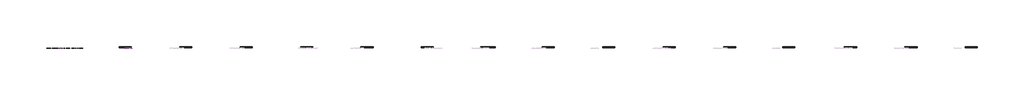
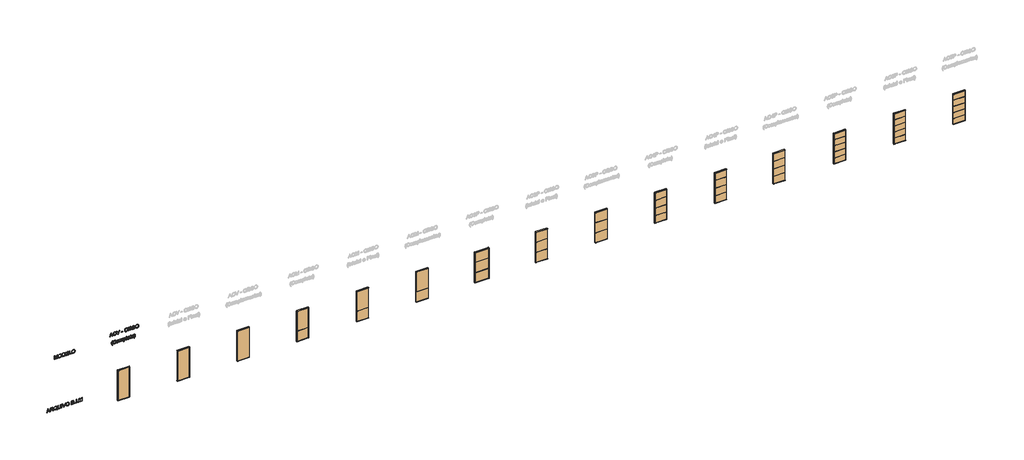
# One storey, part 1 of 12: 15 doors, 3 proxies.
"""IFC4 building model written with IfcOpenShell, lengths in millimetres."""

from ifc_helpers import new_model, si_unit, frame, origin, place, context, project, spatial, polyline, outline, extrude, transform, mapped, element, save
from components import ac3p_bc943793, ac3p_e0ca1f3b, ac3p_97d3eb84, ac4p_dcdd4fd7, ac4p_9f7205b8, ac4p_e05158a3, ac5p_d84bd6de, ac5p_90b039c0, ac5p_9849d78a, acm_47dcd549, acm_d2df9af4, acm_bb8ff462, acv_e3f03def, acv_4e578eec, acv_cffd639f

model = new_model("IFC4")

# Units and contexts
model_context = context("Model", 3, world=origin())
ifc_project = project(units=[si_unit("LENGTHUNIT", "METRE", prefix="MILLI")], contexts=[model_context])

# Site, building, storey
site = spatial("IfcSite", under=ifc_project)
building = spatial("IfcBuilding", under=site)
storey = spatial("IfcBuildingStorey", under=building, Name="02 - Marelli - Planta Baixa - Painéis Cego", Elevation=12000.0)

# Proxies
placement = place(None, origin())
element("IfcBuildingElementProxy", 1, Name="300mm Arial", ObjectType="300mm Arial", at=placement, inside=storey, context=model_context, shape_type="SweptSolid", body=[
    extrude(outline(polyline([(13100.0, -7636.3146377), (13100.0, -7596.5098058), (13194.1777908, -7562.076051), (13194.1777908, -7437.9526659), (13100.0, -7403.4453347), (13100.0, -7363.6405028), (13401.3689304, -7483.9379153), (13401.3689304, -7516.0172252), (13100.0, -7636.3146377)]), holes=[polyline([(13231.8489071, -7548.243688), (13312.415064, -7518.739552), (13363.6978141, -7499.9775703), (13305.9403409, -7478.8611437), (13231.8489071, -7451.7114525), (13231.8489071, -7548.243688)])]), frame((0.0, 8778.3159498, 0.0), z_axis=(0.0, 1.0, 0.0), x_axis=(0.0, 0.0, 1.0)), (0.0, 0.0, 1.0), 10.0),
    extrude(outline(polyline([(13100.0, -7323.3942126), (13100.0, -7285.7230963), (13231.8489071, -7285.7230963), (13231.8489071, -7240.2528817), (13230.5245319, -7218.4006911), (13223.350833, -7200.484838), (13203.816299, -7180.582422), (13162.4663628, -7152.2555084), (13100.0, -7113.0392877), (13100.0, -7069.2613303), (13181.6698029, -7119.5140108), (13220.4445652, -7150.0482164), (13236.5577966, -7171.4589486), (13246.5457928, -7134.3488523), (13254.5610217, -7119.9669655), (13264.5904046, -7108.3671864), (13289.2017101, -7093.0540983), (13318.8897871, -7087.9497357), (13342.7561316, -7091.0307474), (13364.4703663, -7100.2737825), (13381.9815493, -7114.6763626), (13393.2387384, -7133.2360093), (13399.3363824, -7158.629064), (13401.3689304, -7193.5318683), (13401.3689304, -7323.3942126), (13100.0, -7323.3942126)]), holes=[polyline([(13269.5200234, -7285.7230963), (13363.6978141, -7285.7230963), (13363.6978141, -7191.9131875), (13360.4420585, -7162.1055488), (13350.6747915, -7141.5501423), (13335.8675412, -7129.6031746), (13317.4918355, -7125.620852), (13304.1837044, -7127.7085823), (13291.9240369, -7133.9717732), (13281.7888879, -7144.254075), (13274.8543123, -7158.3991377), (13270.8535956, -7177.1887106), (13269.5200234, -7201.404543), (13269.5200234, -7285.7230963)])]), frame((0.0, 8778.3159498, 0.0), z_axis=(0.0, 1.0, 0.0), x_axis=(0.0, 0.0, 1.0)), (0.0, 0.0, 1.0), 10.0),
    extrude(outline(polyline([(13136.1260119, -6795.6307023), (13159.6520655, -6777.1814202), (13186.9673037, -6764.0664271), (13218.0349382, -6756.2305406), (13252.8181808, -6753.6185784), (13294.6463636, -6757.9227978), (13331.9863862, -6770.8354558), (13363.1827793, -6791.9610794), (13386.5800742, -6820.9041954), (13401.2033836, -6855.7702114), (13406.07782, -6894.6645354), (13401.3137481, -6933.2553567), (13387.0215326, -6967.9466288), (13363.6150407, -6996.93573), (13331.5081396, -7018.4200386), (13293.055274, -7031.7189727), (13250.6108888, -7036.1519507), (13208.2032918, -7031.7097756), (13170.3022493, -7018.3832504), (13138.6460036, -6996.8161684), (13114.9727972, -6967.6523232), (13100.2115321, -6932.8322924), (13095.2911105, -6894.2966534), (13099.5585416, -6855.9449554), (13112.360835, -6821.0881364), (13091.52032, -6790.1308665), (13077.1177399, -6759.063232), (13104.7088895, -6748.9096889), (13117.5295771, -6771.2953083), (13136.1260119, -6795.6307023)]), holes=[polyline([(13186.2315397, -6883.9223811), (13157.3895912, -6893.6344658), (13150.712533, -6873.2721974), (13140.6877487, -6853.9767867), (13134.8936072, -6873.6032912), (13132.9622268, -6894.5173826), (13134.8637168, -6916.2385151), (13140.568187, -6935.9316982), (13150.0756373, -6953.5969318), (13163.3860678, -6969.2342158), (13180.251158, -6982.0296115), (13200.4225876, -6991.1691798), (13223.9003567, -6996.6529208), (13250.6844652, -6998.4808344), (13278.1859436, -6996.6322274), (13302.0499888, -6991.0864063), (13322.2766007, -6981.8433712), (13338.8657795, -6968.903122), (13351.7899338, -6953.1577726), (13361.0214726, -6935.4994369), (13366.5603959, -6915.9281147), (13368.4067037, -6894.4438062), (13364.7554749, -6865.9605427), (13353.8017885, -6840.4019411), (13336.2354232, -6819.2027411), (13312.7461578, -6803.7976826), (13284.0605592, -6794.4166917), (13250.9051944, -6791.2896947), (13221.7321522, -6793.5015852), (13196.4586591, -6800.1372567), (13175.0847152, -6811.1967092), (13157.6103204, -6826.6799427), (13174.2569807, -6852.2477413), (13186.2315397, -6883.9223811)])]), frame((0.0, 8778.3159498, 0.0), z_axis=(0.0, 1.0, 0.0), x_axis=(0.0, 0.0, 1.0)), (0.0, 0.0, 1.0), 10.0),
    extrude(outline(polyline([(13401.3689304, -6499.3385434), (13228.8322747, -6499.3385434), (13181.6698029, -6504.1026152), (13164.9311721, -6510.057705), (13152.7542781, -6518.3948307), (13144.0952556, -6529.5278596), (13137.9102396, -6543.8706589), (13132.9622268, -6582.1855687), (13135.4638243, -6606.3554158), (13142.968617, -6626.4785609), (13155.0811317, -6641.9112106), (13171.4058953, -6652.0095714), (13194.9779341, -6657.5829836), (13228.8322747, -6659.4407877), (13401.3689304, -6659.4407877), (13401.3689304, -6697.111904), (13227.5078995, -6697.111904), (13184.7324205, -6694.2516215), (13152.0553023, -6685.6707739), (13127.6923172, -6670.4036711), (13109.8592375, -6647.4846228), (13098.9331422, -6616.904432), (13095.2911105, -6578.6539015), (13099.4757682, -6539.5480454), (13112.0297412, -6508.7563224), (13131.2515755, -6486.2235502), (13155.4398167, -6471.8945465), (13186.7925597, -6464.2242069), (13227.5078995, -6461.6674271), (13401.3689304, -6461.6674271), (13401.3689304, -6499.3385434)])), frame((0.0, 8778.3159498, 0.0), z_axis=(0.0, 1.0, 0.0), x_axis=(0.0, 0.0, 1.0)), (0.0, 0.0, 1.0), 10.0),
    extrude(outline(polyline([(-6353.3629677, 8778.3159498), (-6391.034084, 8778.3159498), (-6391.034084, 8788.3159498), (-6353.3629677, 8788.3159498), (-6353.3629677, 8778.3159498)])), frame((0.0, 0.0, 13100.0), z_axis=(0.0, 0.0, 1.0), x_axis=(1.0, 0.0, 0.0)), (0.0, 0.0, 1.0), 301.3689304),
    extrude(outline(polyline([(13100.0, -6188.9932922), (13100.0, -6150.0713771), (13401.3689304, -6035.2186183), (13401.3689304, -6075.5384849), (13184.2449769, -6156.0310655), (13135.3166715, -6172.0707205), (13184.2449769, -6188.3311046), (13401.3689304, -6268.602956), (13401.3689304, -6308.9228227), (13100.0, -6188.9932922)])), frame((0.0, 8778.3159498, 0.0), z_axis=(0.0, 1.0, 0.0), x_axis=(0.0, 0.0, 1.0)), (0.0, 0.0, 1.0), 10.0),
    extrude(outline(polyline([(13246.7113397, -6014.3229209), (13208.1665036, -6010.0187016), (13171.7002009, -5997.1060436), (13140.007167, -5975.8424642), (13115.7821376, -5946.485481), (13100.4138672, -5910.8377157), (13095.2911105, -5870.70179), (13099.9264236, -5832.892718), (13113.832363, -5797.7507904), (13136.7514113, -5767.7868019), (13168.4260511, -5745.5115471), (13206.8881137, -5731.6883811), (13250.1694304, -5727.0806591), (13292.8805301, -5731.4584548), (13330.8091638, -5744.5918421), (13362.4286213, -5766.0761506), (13386.2121922, -5795.5067102), (13401.1114131, -5830.9521404), (13406.07782, -5870.4810608), (13403.4336681, -5900.7715446), (13395.5012126, -5928.1465636), (13382.2804534, -5952.6061177), (13363.7713905, -5974.1502071), (13340.5902263, -5991.7257694), (13313.3531631, -6004.2797425), (13282.0602009, -6011.8121263), (13246.7113397, -6014.3229209)]), holes=[polyline([(13246.3434577, -5976.6518046), (13276.8799625, -5974.6882345), (13302.7121764, -5968.797524), (13323.8400992, -5958.9796733), (13340.263731, -5945.2346822), (13352.5762816, -5928.7673644), (13361.3709605, -5910.7825334), (13366.6477679, -5891.2801891), (13368.4067037, -5870.2603316), (13364.7554749, -5841.0964864), (13353.8017885, -5814.9676677), (13336.2078321, -5793.3086153), (13312.6357932, -5777.5540688), (13283.8122389, -5767.9523488), (13250.463736, -5764.7517754), (13223.9256486, -5766.6210758), (13200.5973316, -5772.228977), (13180.478785, -5781.5754789), (13163.5700088, -5794.6605816), (13150.1791041, -5810.642755), (13140.6141723, -5828.6804691), (13134.8752131, -5848.7737238), (13132.9622268, -5870.9225192), (13134.856819, -5892.6988341), (13140.5405959, -5912.557564), (13150.0135572, -5930.4987091), (13163.2757032, -5946.5222692), (13179.8349915, -5959.703941), (13199.19938, -5969.1194208), (13221.3688687, -5974.7687087), (13246.3434577, -5976.6518046)])]), frame((0.0, 8778.3159498, 0.0), z_axis=(0.0, 1.0, 0.0), x_axis=(0.0, 0.0, 1.0)), (0.0, 0.0, 1.0), 10.0),
    extrude(outline(polyline([(13100.0, -5557.5606357), (13100.0, -5443.4436408), (13105.1871361, -5395.1407348), (13111.6066769, -5377.10532), (13120.4910271, -5362.3624491), (13132.7598917, -5350.3235108), (13149.3329756, -5340.399894), (13168.8215242, -5333.7504269), (13189.8367832, -5331.5339379), (13215.055094, -5334.7804965), (13236.7049494, -5344.5201723), (13253.6643094, -5360.2931129), (13264.8111338, -5381.6394656), (13276.5557665, -5363.7695977), (13291.4825785, -5351.0684718), (13308.543106, -5343.4809057), (13326.6888854, -5340.951717), (13346.4073604, -5343.9591523), (13365.2429185, -5352.9814582), (13381.2549824, -5367.3104619), (13392.5029744, -5386.2379906), (13399.1524414, -5410.9320695), (13401.3689304, -5442.560724), (13401.3689304, -5557.5606357), (13100.0, -5557.5606357)]), holes=[polyline([(13278.9378025, -5519.8895194), (13363.6978141, -5519.8895194), (13363.6978141, -5456.3195106), (13359.7614768, -5407.9062401), (13354.1604734, -5395.4166463), (13345.230138, -5386.2012024), (13333.7890079, -5380.5174255), (13320.6556207, -5378.6228333), (13307.1267603, -5380.6553813), (13296.1178916, -5386.7530254), (13287.7577733, -5396.8605832), (13282.175164, -5410.9228724), (13278.9378025, -5451.0955863), (13278.9378025, -5519.8895194)]), polyline([(13137.6711163, -5519.8895194), (13241.2666861, -5519.8895194), (13241.2666861, -5446.3131204), (13240.0066903, -5419.4853259), (13236.2267028, -5399.776048), (13229.3381125, -5385.8609115), (13218.752308, -5376.4155413), (13205.2142506, -5371.007676), (13189.4689012, -5369.2050542), (13175.9124497, -5370.7409615), (13164.0850436, -5375.3486835), (13147.3464128, -5391.0204565), (13139.1426443, -5414.6752688), (13137.6711163, -5442.6343004), (13137.6711163, -5519.8895194)])]), frame((0.0, 8778.3159498, 0.0), z_axis=(0.0, 1.0, 0.0), x_axis=(0.0, 0.0, 1.0)), (0.0, 0.0, 1.0), 10.0),
    extrude(outline(polyline([(-5237.3561471, 8778.3159498), (-5275.0272634, 8778.3159498), (-5275.0272634, 8788.3159498), (-5237.3561471, 8788.3159498), (-5237.3561471, 8778.3159498)])), frame((0.0, 0.0, 13100.0), z_axis=(0.0, 0.0, 1.0), x_axis=(1.0, 0.0, 0.0)), (0.0, 0.0, 1.0), 37.6711163),
    extrude(outline(polyline([(-5119.6339087, 8778.3159498), (-5157.305025, 8778.3159498), (-5157.305025, 8788.3159498), (-5119.6339087, 8788.3159498), (-5119.6339087, 8778.3159498)])), frame((0.0, 0.0, 13100.0), z_axis=(0.0, 0.0, 1.0), x_axis=(1.0, 0.0, 0.0)), (0.0, 0.0, 1.0), 301.3689304),
    extrude(outline(polyline([(-5001.9116702, 8778.3159498), (-5039.5827865, 8778.3159498), (-5039.5827865, 8788.3159498), (-5001.9116702, 8788.3159498), (-5001.9116702, 8778.3159498)])), frame((0.0, 0.0, 13100.0), z_axis=(0.0, 0.0, 1.0), x_axis=(1.0, 0.0, 0.0)), (0.0, 0.0, 1.0), 37.6711163),
    extrude(outline(polyline([(13100.0, -4926.5694376), (13100.0, -4888.8983213), (13363.6978141, -4888.8983213), (13100.0, -4813.1882067), (13100.0, -4762.1261857), (13363.6978141, -4686.4160711), (13100.0, -4686.4160711), (13100.0, -4648.7449548), (13401.3689304, -4648.7449548), (13401.3689304, -4713.5657624), (13192.6326864, -4774.1927152), (13144.5872978, -4787.6571962), (13188.9538664, -4800.0916076), (13401.3689304, -4861.74863), (13401.3689304, -4926.5694376), (13100.0, -4926.5694376)])), frame((0.0, 8778.3159498, 0.0), z_axis=(0.0, 1.0, 0.0), x_axis=(0.0, 0.0, 1.0)), (0.0, 0.0, 1.0), 10.0),
])
element("IfcBuildingElementProxy", 2, Name="300mm Arial", ObjectType="300mm Arial", at=placement, inside=storey, context=model_context, shape_type="SweptSolid", body=[
    extrude(outline(polyline([(17600.0, -6993.7719449), (17600.0, -6956.1008286), (17863.6978141, -6956.1008286), (17600.0, -6880.390714), (17600.0, -6829.328693), (17863.6978141, -6753.6185784), (17600.0, -6753.6185784), (17600.0, -6715.9474621), (17901.3689304, -6715.9474621), (17901.3689304, -6780.7682697), (17692.6326864, -6841.3952225), (17644.5872978, -6854.8597035), (17688.9538664, -6867.2941149), (17901.3689304, -6928.9511373), (17901.3689304, -6993.7719449), (17600.0, -6993.7719449)])), frame((0.0, 8778.3159498, 0.0), z_axis=(0.0, 1.0, 0.0), x_axis=(0.0, 0.0, 1.0)), (0.0, 0.0, 1.0), 10.0),
    extrude(outline(polyline([(17746.7113397, -6664.1496772), (17708.1665036, -6659.8454579), (17671.7002009, -6646.9327998), (17640.007167, -6625.6692205), (17615.7821376, -6596.3122373), (17600.4138672, -6560.664472), (17595.2911105, -6520.5285463), (17599.9264236, -6482.7194742), (17613.832363, -6447.5775466), (17636.7514113, -6417.6135581), (17668.4260511, -6395.3383033), (17706.8881137, -6381.5151374), (17750.1694304, -6376.9074154), (17792.8805301, -6381.2852111), (17830.8091638, -6394.4185983), (17862.4286213, -6415.9029069), (17886.2121922, -6445.3334665), (17901.1114131, -6480.7788967), (17906.07782, -6520.3078171), (17903.4336681, -6550.5983009), (17895.5012126, -6577.9733198), (17882.2804534, -6602.432874), (17863.7713905, -6623.9769633), (17840.5902263, -6641.5525257), (17813.3531631, -6654.1064987), (17782.0602009, -6661.6388826), (17746.7113397, -6664.1496772)]), holes=[polyline([(17746.3434577, -6626.4785609), (17776.8799625, -6624.5149908), (17802.7121764, -6618.6242803), (17823.8400992, -6608.8064296), (17840.263731, -6595.0614385), (17852.5762816, -6578.5941207), (17861.3709605, -6560.6092897), (17866.6477679, -6541.1069454), (17868.4067037, -6520.0870879), (17864.7554749, -6490.9232427), (17853.8017885, -6464.794424), (17836.2078321, -6443.1353716), (17812.6357932, -6427.3808251), (17783.8122389, -6417.779105), (17750.463736, -6414.5785317), (17723.9256486, -6416.4478321), (17700.5973316, -6422.0557332), (17680.478785, -6431.4022352), (17663.5700088, -6444.4873379), (17650.1791041, -6460.4695113), (17640.6141723, -6478.5072254), (17634.8752131, -6498.6004801), (17632.9622268, -6520.7492755), (17634.856819, -6542.5255903), (17640.5405959, -6562.3843203), (17650.0135572, -6580.3254653), (17663.2757032, -6596.3490255), (17679.8349915, -6609.5306972), (17699.19938, -6618.9461771), (17721.3688687, -6624.5954649), (17746.3434577, -6626.4785609)])]), frame((0.0, 8778.3159498, 0.0), z_axis=(0.0, 1.0, 0.0), x_axis=(0.0, 0.0, 1.0)), (0.0, 0.0, 1.0), 10.0),
    extrude(outline(polyline([(17600.0, -6325.1096305), (17600.0, -6216.1429835), (17605.1503479, -6167.6929247), (17611.5055094, -6148.1491937), (17620.2702979, -6131.6772774), (17632.088507, -6117.3298796), (17647.6039302, -6104.1597042), (17667.2580258, -6092.7185741), (17691.4922522, -6083.5583124), (17719.9571216, -6077.5434418), (17752.303146, -6075.5384849), (17790.3789325, -6078.499935), (17823.9665587, -6087.3842852), (17852.5142015, -6102.2283237), (17875.470038, -6123.0688387), (17888.6586075, -6143.3391366), (17897.0279229, -6167.3618309), (17901.3689304, -6221.1461786), (17901.3689304, -6325.1096305), (17600.0, -6325.1096305)]), holes=[polyline([(17637.6711163, -6287.4385141), (17863.6978141, -6287.4385141), (17863.6978141, -6221.8083662), (17862.189498, -6190.06015), (17857.6645494, -6168.3919005), (17845.0829852, -6147.10073), (17824.2608643, -6129.2860444), (17793.9473879, -6117.228712), (17752.8917572, -6113.2096012), (17721.9068962, -6115.2605434), (17695.9068361, -6121.4133697), (17674.7996067, -6131.245016), (17658.4932372, -6144.332418), (17649.6824634, -6156.5093121), (17643.1157698, -6172.2914497), (17639.0322797, -6193.2055411), (17637.6711163, -6220.7782966), (17637.6711163, -6287.4385141)])]), frame((0.0, 8778.3159498, 0.0), z_axis=(0.0, 1.0, 0.0), x_axis=(0.0, 0.0, 1.0)), (0.0, 0.0, 1.0), 10.0),
    extrude(outline(polyline([(17600.0, -6023.7407), (17600.0, -5802.4228917), (17637.6711163, -5802.4228917), (17637.6711163, -5986.0695837), (17736.5577966, -5986.0695837), (17736.5577966, -5816.5495603), (17774.2289129, -5816.5495603), (17774.2289129, -5986.0695837), (17863.6978141, -5986.0695837), (17863.6978141, -5807.1317812), (17901.3689304, -5807.1317812), (17901.3689304, -6023.7407), (17600.0, -6023.7407)])), frame((0.0, 8778.3159498, 0.0), z_axis=(0.0, 1.0, 0.0), x_axis=(0.0, 0.0, 1.0)), (0.0, 0.0, 1.0), 10.0),
    extrude(outline(polyline([(17600.0, -5745.9162172), (17600.0, -5557.5606357), (17637.6711163, -5557.5606357), (17637.6711163, -5708.2451009), (17901.3689304, -5708.2451009), (17901.3689304, -5745.9162172), (17600.0, -5745.9162172)])), frame((0.0, 8778.3159498, 0.0), z_axis=(0.0, 1.0, 0.0), x_axis=(0.0, 0.0, 1.0)), (0.0, 0.0, 1.0), 10.0),
    extrude(outline(polyline([(17746.7113397, -5529.3072985), (17708.1665036, -5525.0030791), (17671.7002009, -5512.0904211), (17640.007167, -5490.8268418), (17615.7821376, -5461.4698586), (17600.4138672, -5425.8220932), (17595.2911105, -5385.6861676), (17599.9264236, -5347.8770955), (17613.832363, -5312.7351679), (17636.7514113, -5282.7711794), (17668.4260511, -5260.4959246), (17706.8881137, -5246.6727586), (17750.1694304, -5242.0650367), (17792.8805301, -5246.4428324), (17830.8091638, -5259.5762196), (17862.4286213, -5281.0605281), (17886.2121922, -5310.4910878), (17901.1114131, -5345.936518), (17906.07782, -5385.4654384), (17903.4336681, -5415.7559222), (17895.5012126, -5443.1309411), (17882.2804534, -5467.5904953), (17863.7713905, -5489.1345846), (17840.5902263, -5506.7101469), (17813.3531631, -5519.26412), (17782.0602009, -5526.7965039), (17746.7113397, -5529.3072985)]), holes=[polyline([(17746.3434577, -5491.6361822), (17776.8799625, -5489.672612), (17802.7121764, -5483.7819016), (17823.8400992, -5473.9640508), (17840.263731, -5460.2190598), (17852.5762816, -5443.751742), (17861.3709605, -5425.7669109), (17866.6477679, -5406.2645667), (17868.4067037, -5385.2447092), (17864.7554749, -5356.080864), (17853.8017885, -5329.9520453), (17836.2078321, -5308.2929928), (17812.6357932, -5292.5384464), (17783.8122389, -5282.9367263), (17750.463736, -5279.736153), (17723.9256486, -5281.6054533), (17700.5973316, -5287.2133545), (17680.478785, -5296.5598565), (17663.5700088, -5309.6449592), (17650.1791041, -5325.6271326), (17640.6141723, -5343.6648467), (17634.8752131, -5363.7581014), (17632.9622268, -5385.9068968), (17634.856819, -5407.6832116), (17640.5405959, -5427.5419416), (17650.0135572, -5445.4830866), (17663.2757032, -5461.5066468), (17679.8349915, -5474.6883185), (17699.19938, -5484.1037983), (17721.3688687, -5489.7530862), (17746.3434577, -5491.6361822)])]), frame((0.0, 8778.3159498, 0.0), z_axis=(0.0, 1.0, 0.0), x_axis=(0.0, 0.0, 1.0)), (0.0, 0.0, 1.0), 10.0),
])
element("IfcBuildingElementProxy", 3, Name="300mm Arial", ObjectType="300mm Arial", at=placement, inside=storey, context=model_context, shape_type="SweptSolid", body=[
    extrude(outline(polyline([(17965.9244535, -2358.4901549), (17965.9244535, -2318.685323), (18060.1022443, -2284.2515683), (18060.1022443, -2160.1281831), (17965.9244535, -2125.620852), (17965.9244535, -2085.8160201), (18267.293384, -2206.1134325), (18267.293384, -2238.1927425), (17965.9244535, -2358.4901549)]), holes=[polyline([(18097.7733606, -2270.4192053), (18178.3395176, -2240.9150692), (18229.6222677, -2222.1530875), (18171.8647944, -2201.036661), (18097.7733606, -2173.8869697), (18097.7733606, -2270.4192053)])]), frame((0.0, 8778.3159498, 0.0), z_axis=(0.0, 1.0, 0.0), x_axis=(0.0, 0.0, 1.0)), (0.0, 0.0, 1.0), 10.0),
    extrude(outline(polyline([(18073.0516905, -1833.6697006), (18040.7884396, -1845.8557917), (18017.5750857, -1865.638646), (18003.5587816, -1891.8410411), (17998.8866803, -1923.2857546), (18002.3171799, -1950.2607019), (18012.6086787, -1975.2674805), (18029.8347531, -1996.1263897), (18054.0689796, -2010.6577285), (18084.1617268, -2019.1833937), (18118.9633635, -2022.0252821), (18147.3822477, -2019.6248521), (18174.9550032, -2012.423562), (18199.3455795, -1999.2993719), (18218.2179258, -1979.1302415), (18230.3028494, -1952.5507673), (18234.3311572, -1920.1955459), (18230.6983225, -1892.1261496), (18219.7998184, -1869.2806777), (18200.9550632, -1851.438401), (18173.4834752, -1838.3785901), (18182.4597959, -1800.7074738), (18220.278065, -1817.3449371), (18235.6003501, -1829.1470513), (18248.5314022, -1843.2714207), (18258.7999084, -1859.4513307), (18266.1345557, -1877.4200669), (18272.0022735, -1918.7240179), (18267.4681279, -1956.5790752), (18253.8656912, -1991.1231945), (18231.526057, -2020.2502515), (18200.7803193, -2041.8541217), (18162.8332915, -2055.2358292), (18118.8897871, -2059.6963984), (18077.2271512, -2055.750864), (18038.3236302, -2043.9142608), (18005.2326447, -2024.5268797), (17981.0076153, -1997.9290114), (17966.1635768, -1963.2285422), (17961.215564, -1919.5333583), (17962.8503396, -1897.1109507), (17967.7546665, -1876.4911648), (17975.9285445, -1857.6740008), (17987.3719739, -1840.6594585), (18001.9286046, -1825.7832303), (18019.4420868, -1813.3810086), (18039.9124206, -1803.4527932), (18063.3396059, -1795.9985843), (18073.0516905, -1833.6697006)])), frame((0.0, 8778.3159498, 0.0), z_axis=(0.0, 1.0, 0.0), x_axis=(0.0, 0.0, 1.0)), (0.0, 0.0, 1.0), 10.0),
    extrude(outline(polyline([(17965.9244535, -1655.1733565), (17965.9244535, -1616.2514414), (18267.293384, -1501.3986825), (18267.293384, -1541.7185492), (18050.1694304, -1622.2111298), (18001.2411251, -1638.2507847), (18050.1694304, -1654.5111689), (18267.293384, -1734.7830203), (18267.293384, -1775.102887), (17965.9244535, -1655.1733565)])), frame((0.0, 8778.3159498, 0.0), z_axis=(0.0, 1.0, 0.0), x_axis=(0.0, 0.0, 1.0)), (0.0, 0.0, 1.0), 10.0),
    extrude(outline(polyline([(-1254.4762874, 8778.3159498), (-1372.1985258, 8778.3159498), (-1372.1985258, 8788.3159498), (-1254.4762874, 8788.3159498), (-1254.4762874, 8778.3159498)])), frame((0.0, 0.0, 18055.3933548), z_axis=(0.0, 0.0, 1.0), x_axis=(1.0, 0.0, 0.0)), (0.0, 0.0, 1.0), 37.6711163),
    extrude(outline(polyline([(18073.0516905, -877.7651243), (18040.7884396, -889.9512154), (18017.5750857, -909.7340697), (18003.5587816, -935.9364648), (17998.8866803, -967.3811783), (18002.3171799, -994.3561256), (18012.6086787, -1019.3629043), (18029.8347531, -1040.2218134), (18054.0689796, -1054.7531522), (18084.1617268, -1063.2788174), (18118.9633635, -1066.1207058), (18147.3822477, -1063.7202758), (18174.9550032, -1056.5189858), (18199.3455795, -1043.3947956), (18218.2179258, -1023.2256652), (18230.3028494, -996.6461911), (18234.3311572, -964.2909696), (18230.6983225, -936.2215734), (18219.7998184, -913.3761015), (18200.9550632, -895.5338247), (18173.4834752, -882.4740139), (18182.4597959, -844.8028976), (18220.278065, -861.4403608), (18235.6003501, -873.242475), (18248.5314022, -887.3668444), (18258.7999084, -903.5467544), (18266.1345557, -921.5154906), (18272.0022735, -962.8194416), (18267.4681279, -1000.6744989), (18253.8656912, -1035.2186183), (18231.526057, -1064.3456752), (18200.7803193, -1085.9495454), (18162.8332915, -1099.331253), (18118.8897871, -1103.7918222), (18077.2271512, -1099.8462878), (18038.3236302, -1088.0096846), (18005.2326447, -1068.6223034), (17981.0076153, -1042.0244352), (17966.1635768, -1007.323966), (17961.215564, -963.628782), (17962.8503396, -941.2063744), (17967.7546665, -920.5865886), (17975.9285445, -901.7694245), (17987.3719739, -884.7548822), (18001.9286046, -869.878654), (18019.4420868, -857.4764323), (18039.9124206, -847.5482169), (18063.3396059, -840.094008), (18073.0516905, -877.7651243)])), frame((0.0, 8778.3159498, 0.0), z_axis=(0.0, 1.0, 0.0), x_axis=(0.0, 0.0, 1.0)), (0.0, 0.0, 1.0), 10.0),
    extrude(outline(polyline([(17965.9244535, -788.2962231), (17965.9244535, -566.9784148), (18003.5955698, -566.9784148), (18003.5955698, -750.6251068), (18102.4822501, -750.6251068), (18102.4822501, -581.1050834), (18140.1533665, -581.1050834), (18140.1533665, -750.6251068), (18229.6222677, -750.6251068), (18229.6222677, -571.6873043), (18267.293384, -571.6873043), (18267.293384, -788.2962231), (17965.9244535, -788.2962231)])), frame((0.0, 8778.3159498, 0.0), z_axis=(0.0, 1.0, 0.0), x_axis=(0.0, 0.0, 1.0)), (0.0, 0.0, 1.0), 10.0),
    extrude(outline(polyline([(18083.646692, -369.2050542), (18083.646692, -284.4450425), (18029.2001567, -284.4450425), (18018.55917, -300.4938945), (18008.5619768, -322.5944054), (18001.3055044, -348.0426424), (17998.8866803, -374.1346729), (18002.0964507, -403.6847942), (18011.7257619, -431.5610524), (18027.967752, -455.3814116), (18051.015559, -472.7638358), (18080.6576508, -483.3864284), (18116.6824952, -486.9272926), (18147.4006418, -483.9842367), (18175.83792, -475.1550688), (18204.8638094, -455.7676877), (18216.8015801, -441.3283193), (18226.2009651, -422.9526137), (18232.2986092, -400.7233441), (18234.3311572, -374.7232841), (18232.445762, -352.5124087), (18226.7895763, -332.3800665), (18217.9971966, -315.4942829), (18206.7032194, -303.0230833), (18191.7212251, -293.5961071), (18171.8647944, -285.8429941), (18181.6504555, -251.1149337), (18209.4899255, -260.7074568), (18231.4984659, -273.8868292), (18248.494614, -291.7015149), (18261.2969075, -315.1999773), (18269.325932, -343.1038266), (18272.0022735, -374.1346729), (18267.3853545, -416.4043142), (18253.5345974, -453.4500311), (18230.1832877, -483.864675), (18197.0647111, -506.2410974), (18157.581776, -520.0090811), (18115.1373908, -524.5984089), (18072.9965082, -519.990687), (18035.0126922, -506.167521), (18003.3472495, -483.303655), (17980.1614867, -451.5738329), (17965.9520447, -413.3784848), (17961.215564, -371.1180406), (17964.1954082, -338.7720161), (17973.1349406, -307.216938), (17987.9789791, -276.5263826), (18008.6723414, -246.7739262), (18121.3178083, -246.7739262), (18121.3178083, -369.2050542), (18083.646692, -369.2050542)])), frame((0.0, 8778.3159498, 0.0), z_axis=(0.0, 1.0, 0.0), x_axis=(0.0, 0.0, 1.0)), (0.0, 0.0, 1.0), 10.0),
    extrude(outline(polyline([(18112.6357932, -199.6850308), (18074.0909572, -195.3808115), (18037.6246544, -182.4681534), (18005.9316205, -161.2045741), (17981.7065911, -131.8475909), (17966.3383208, -96.1998256), (17961.215564, -56.0638999), (17965.8508771, -18.2548278), (17979.7568166, 16.8870998), (18002.6758649, 46.8510883), (18034.3505046, 69.1263431), (18072.8125672, 82.949509), (18116.093884, 87.557231), (18158.8049836, 83.1794353), (18196.7336173, 70.0460481), (18228.3530748, 48.5617395), (18252.1366458, 19.1311799), (18267.0358666, -16.3142503), (18272.0022735, -55.8431707), (18269.3581217, -86.1336545), (18261.4256662, -113.5086734), (18248.204907, -137.9682276), (18229.6958441, -159.5123169), (18206.5146799, -177.0878793), (18179.2776166, -189.6418523), (18147.9846544, -197.1742362), (18112.6357932, -199.6850308)]), holes=[polyline([(18112.2679112, -162.0139145), (18142.8044161, -160.0503444), (18168.6366299, -154.1596339), (18189.7645528, -144.3417832), (18206.1881846, -130.5967921), (18218.5007351, -114.1294743), (18227.2954141, -96.1446433), (18232.5722214, -76.642299), (18234.3311572, -55.6224415), (18230.6799284, -26.4585963), (18219.726242, -0.3297776), (18202.1322856, 21.3292748), (18178.5602467, 37.0838213), (18149.7366924, 46.6855414), (18116.3881896, 49.8861147), (18089.8501021, 48.0168143), (18066.5217851, 42.4089132), (18046.4032385, 33.0624112), (18029.4944623, 19.9773085), (18016.1035577, 3.9951351), (18006.5386258, -14.042579), (18000.7996667, -34.1358337), (17998.8866803, -56.2846291), (18000.7812726, -78.0609439), (18006.4650494, -97.9196739), (18015.9380108, -115.8608189), (18029.2001567, -131.8843791), (18045.759445, -145.0660508), (18065.1238335, -154.4815307), (18087.2933223, -160.1308185), (18112.2679112, -162.0139145)])]), frame((0.0, 8778.3159498, 0.0), z_axis=(0.0, 1.0, 0.0), x_axis=(0.0, 0.0, 1.0)), (0.0, 0.0, 1.0), 10.0),
    extrude(outline(polyline([(17149.3155348, -2135.038631), (17149.3155348, -2106.7852938), (17197.5540614, -2135.6272422), (17245.8109821, -2156.228634), (17294.0862969, -2168.589469), (17342.3800058, -2172.7097473), (17380.2534572, -2170.3369085), (17417.9429677, -2163.2183919), (17475.7740173, -2142.0283889), (17535.4444769, -2106.7852938), (17535.4444769, -2135.038631), (17484.934279, -2169.7299032), (17434.2033518, -2194.0469031), (17389.4137189, -2206.2973735), (17342.600735, -2210.3808636), (17289.2210575, -2204.917816), (17237.68079, -2188.5286731), (17190.2791949, -2164.2300674), (17149.3155348, -2135.038631)])), frame((0.0, 8778.3159498, 0.0), z_axis=(0.0, 1.0, 0.0), x_axis=(0.0, 0.0, 1.0)), (0.0, 0.0, 1.0), 10.0),
    extrude(outline(polyline([(17341.2027835, -1852.5052587), (17308.9395325, -1864.6913498), (17285.7261786, -1884.4742041), (17271.7098746, -1910.6765992), (17267.0377732, -1942.1213128), (17270.4682728, -1969.0962601), (17280.7597717, -1994.1030387), (17297.9858461, -2014.9619478), (17322.2200725, -2029.4932866), (17352.3128197, -2038.0189519), (17387.1144565, -2040.8608403), (17415.5333406, -2038.4604103), (17443.1060961, -2031.2591202), (17467.4966724, -2018.13493), (17486.3690188, -1997.9657996), (17498.4539423, -1971.3863255), (17502.4822501, -1939.031104), (17498.8494154, -1910.9617078), (17487.9509113, -1888.1162359), (17469.1061561, -1870.2739591), (17441.6345681, -1857.2141483), (17450.6108888, -1819.543032), (17488.4291579, -1836.1804952), (17503.751443, -1847.9826095), (17516.6824952, -1862.1069788), (17526.9510013, -1878.2868888), (17534.2856486, -1896.255625), (17540.1533665, -1937.559576), (17535.6192209, -1975.4146333), (17522.0167841, -2009.9587527), (17499.6771499, -2039.0858096), (17468.9314122, -2060.6896798), (17430.9843844, -2074.0713874), (17387.0408801, -2078.5319566), (17345.3782441, -2074.5864222), (17306.4747231, -2062.749819), (17273.3837376, -2043.3624378), (17249.1587083, -2016.7645696), (17234.3146698, -1982.0641004), (17229.3666569, -1938.3689164), (17231.0014325, -1915.9465088), (17235.9057594, -1895.326723), (17244.0796375, -1876.5095589), (17255.5230668, -1859.4950166), (17270.0796975, -1844.6187885), (17287.5931797, -1832.2165667), (17308.0635135, -1822.2883514), (17331.4906988, -1814.8341424), (17341.2027835, -1852.5052587)])), frame((0.0, 8778.3159498, 0.0), z_axis=(0.0, 1.0, 0.0), x_axis=(0.0, 0.0, 1.0)), (0.0, 0.0, 1.0), 10.0),
    extrude(outline(polyline([(17344.7344506, -1777.1630261), (17318.4124939, -1775.4546741), (17295.3646869, -1770.3296181), (17275.5910296, -1761.787858), (17259.0915221, -1749.8293939), (17246.0868936, -1735.1026178), (17236.7978732, -1718.2559216), (17231.224461, -1699.2893055), (17229.3666569, -1678.2027694), (17232.7419742, -1651.6140982), (17242.8679261, -1627.1775367), (17259.1007192, -1606.6037361), (17280.7965599, -1591.6033478), (17309.767267, -1582.4430861), (17347.8246594, -1579.3896655), (17372.7049786, -1581.1164116), (17394.7388108, -1586.29665), (17413.9261561, -1594.9303806), (17430.2670145, -1607.0176034), (17443.3199275, -1621.8271529), (17452.6434368, -1638.6278638), (17458.2375424, -1657.419736), (17460.1022443, -1678.2027694), (17458.5709355, -1697.0291305), (17453.9770091, -1714.3655696), (17446.3204651, -1730.2120865), (17435.6013034, -1744.5686814), (17418.830483, -1758.8287072), (17398.095734, -1769.0144399), (17373.3970566, -1775.1258796), (17344.7344506, -1777.1630261)]), holes=[polyline([(17344.808027, -1739.4919098), (17378.8830968, -1735.1325082), (17403.1173232, -1722.0543032), (17417.6026768, -1702.3726165), (17422.431128, -1678.2027694), (17417.5842827, -1654.2812427), (17403.0437468, -1634.608753), (17379.0854319, -1621.4477746), (17345.9852494, -1617.0607818), (17311.1468245, -1621.4201835), (17286.535519, -1634.4983884), (17271.9122097, -1654.1432869), (17267.0377732, -1678.2027694), (17271.8846185, -1702.3726165), (17286.4251544, -1722.0543032), (17310.7145631, -1735.1325082), (17344.808027, -1739.4919098)])]), frame((0.0, 8778.3159498, 0.0), z_axis=(0.0, 1.0, 0.0), x_axis=(0.0, 0.0, 1.0)), (0.0, 0.0, 1.0), 10.0),
    extrude(outline(polyline([(17234.0755465, -1537.0096597), (17234.0755465, -1499.3385434), (17345.6909438, -1499.3385434), (17371.6082304, -1497.9038036), (17390.6461236, -1493.5995842), (17404.368122, -1486.0947915), (17414.3377241, -1475.0583317), (17420.407777, -1461.6858212), (17422.431128, -1447.1728765), (17419.3961015, -1430.0939548), (17410.2910222, -1418.5884454), (17395.0974958, -1412.049343), (17373.7971282, -1409.8696421), (17234.0755465, -1409.8696421), (17234.0755465, -1372.1985258), (17359.008272, -1372.1985258), (17387.7214617, -1368.5105088), (17407.3479662, -1357.4464578), (17418.6603375, -1340.8089946), (17422.431128, -1320.4007409), (17420.9596, -1308.8400492), (17416.5450161, -1298.8796442), (17409.7300021, -1291.1357282), (17401.0571841, -1286.2245036), (17369.6032735, -1282.7296246), (17234.0755465, -1282.7296246), (17234.0755465, -1245.0585083), (17385.7900813, -1245.0585083), (17418.7615051, -1249.3719247), (17441.8920855, -1262.3121739), (17455.5497046, -1283.2538565), (17460.1022443, -1311.571573), (17457.366122, -1331.0969099), (17449.1577549, -1348.6908663), (17435.4771432, -1364.3534423), (17416.3242869, -1378.0846378), (17434.7643719, -1386.2884063), (17448.5875379, -1398.8331823), (17457.2235677, -1415.6269954), (17460.1022443, -1436.577875), (17457.27875, -1456.130803), (17448.808267, -1473.4396509), (17435.702471, -1488.0077779), (17418.9730372, -1499.3385434), (17455.3933548, -1499.3385434), (17455.3933548, -1537.0096597), (17234.0755465, -1537.0096597)])), frame((0.0, 8778.3159498, 0.0), z_axis=(0.0, 1.0, 0.0), x_axis=(0.0, 0.0, 1.0)), (0.0, 0.0, 1.0), 10.0),
    extrude(outline(polyline([(17149.3155348, -1188.5518338), (17149.3155348, -1150.8807175), (17263.5061061, -1150.8807175), (17249.9956398, -1140.2397308), (17239.0419534, -1127.0051761), (17231.785481, -1111.5449352), (17229.3666569, -1094.2268903), (17232.9810975, -1069.8087229), (17243.8244193, -1046.5861719), (17261.4459669, -1026.6469678), (17285.3950848, -1012.0788408), (17314.2094421, -1003.1668994), (17346.4267078, -1000.1962523), (17376.7217901, -1002.8266086), (17404.4784866, -1010.7176774), (17427.9861461, -1023.7774882), (17445.5341173, -1041.9140706), (17456.4602125, -1064.1893254), (17460.1022443, -1089.6651535), (17457.4994792, -1108.7950173), (17449.6911838, -1124.8346723), (17436.6773583, -1138.5934589), (17418.4580024, -1150.8807175), (17455.3933548, -1150.8807175), (17455.3933548, -1188.5518338), (17149.3155348, -1188.5518338)]), holes=[polyline([(17342.968617, -1150.8807175), (17377.1356573, -1146.5305129), (17402.0872537, -1133.4798992), (17417.3451594, -1114.7822968), (17422.431128, -1093.4911263), (17417.6486621, -1072.2827293), (17403.3012642, -1054.2749056), (17379.3521464, -1041.9692529), (17345.7645202, -1037.8673686), (17310.7237602, -1042.0704204), (17286.2412134, -1054.6795758), (17271.8386333, -1073.1748431), (17267.0377732, -1095.0362307), (17271.6730864, -1116.5481303), (17285.5790258, -1134.5835452), (17309.1970499, -1146.8064244), (17342.968617, -1150.8807175)])]), frame((0.0, 8778.3159498, 0.0), z_axis=(0.0, 1.0, 0.0), x_axis=(0.0, 0.0, 1.0)), (0.0, 0.0, 1.0), 10.0),
    extrude(outline(polyline([(-920.1451302, 8778.3159498), (-957.8162465, 8778.3159498), (-957.8162465, 8788.3159498), (-920.1451302, 8788.3159498), (-920.1451302, 8778.3159498)])), frame((0.0, 0.0, 17234.0755465), z_axis=(0.0, 0.0, 1.0), x_axis=(1.0, 0.0, 0.0)), (0.0, 0.0, 1.0), 301.3689304),
    extrude(outline(polyline([(17300.0, -708.6865593), (17285.1191733, -719.2447726), (17274.9104479, -732.966771), (17269.0059419, -749.8525546), (17267.0377732, -769.9021233), (17271.2868103, -796.5643709), (17284.0339214, -818.4257585), (17304.7640718, -833.5732996), (17332.9622268, -840.094008), (17332.9622268, -670.7947138), (17343.1157698, -670.5739846), (17369.3687487, -672.3605116), (17392.5039277, -677.7200924), (17412.5213067, -686.6527271), (17429.4208859, -699.1584157), (17442.8439802, -714.4784015), (17452.4319047, -731.853928), (17458.1846594, -751.2849951), (17460.1022443, -772.7716029), (17458.1800609, -794.9732813), (17452.4135106, -815.0044559), (17442.8025935, -832.8651268), (17429.3473095, -848.5552939), (17412.4109422, -861.3345947), (17392.3567749, -870.4626667), (17369.1848077, -875.9395099), (17342.8950406, -877.7651243), (17317.467497, -875.957904), (17295.0427901, -870.5362431), (17275.62092, -861.5001416), (17259.2018867, -848.8495995), (17246.1489737, -833.1180457), (17236.8254644, -814.838909), (17231.2313588, -794.0121896), (17229.3666569, -770.6378873), (17233.6892704, -734.9809249), (17246.6571107, -706.2953264), (17267.4608375, -685.0593382), (17295.2911105, -671.751207), (17300.0, -708.6865593)]), holes=[polyline([(17370.6333431, -840.094008), (17391.8693312, -833.9043934), (17408.3412476, -819.3086753), (17418.9086579, -798.3118104), (17422.431128, -772.9187557), (17418.0165441, -745.2908179), (17404.7727922, -723.3282627), (17390.535759, -713.3402666), (17370.6333431, -708.2451009), (17370.6333431, -840.094008)])]), frame((0.0, 8778.3159498, 0.0), z_axis=(0.0, 1.0, 0.0), x_axis=(0.0, 0.0, 1.0)), (0.0, 0.0, 1.0), 10.0),
    extrude(outline(polyline([(17265.4926689, -552.8517462), (17267.0377732, -569.2592832), (17269.576159, -582.0983648), (17276.4555523, -588.5362997), (17295.8797217, -590.5228625), (17417.7222385, -590.5228625), (17417.7222385, -552.8517462), (17455.3933548, -552.8517462), (17455.3933548, -590.5228625), (17531.3241986, -590.5228625), (17509.1777025, -628.1939788), (17455.3933548, -628.1939788), (17455.3933548, -656.447316), (17417.7222385, -656.447316), (17417.7222385, -628.1939788), (17294.7760757, -628.1939788), (17267.7919313, -627.0535446), (17252.0281878, -623.6322421), (17242.849532, -617.4150363), (17235.6206508, -607.8868927), (17230.9301554, -594.4040175), (17229.3666569, -576.3226175), (17232.9719005, -548.1428566), (17265.4926689, -552.8517462)])), frame((0.0, 8778.3159498, 0.0), z_axis=(0.0, 1.0, 0.0), x_axis=(0.0, 0.0, 1.0)), (0.0, 0.0, 1.0), 10.0),
    extrude(outline(polyline([(17344.7344506, -524.5984089), (17318.4124939, -522.8900569), (17295.3646869, -517.7650009), (17275.5910296, -509.2232408), (17259.0915221, -497.2647767), (17246.0868936, -482.5380006), (17236.7978732, -465.6913045), (17231.224461, -446.7246884), (17229.3666569, -425.6381522), (17232.7419742, -399.049481), (17242.8679261, -374.6129195), (17259.1007192, -354.0391189), (17280.7965599, -339.0387306), (17309.767267, -329.8784689), (17347.8246594, -326.8250483), (17372.7049786, -328.5517945), (17394.7388108, -333.7320328), (17413.9261561, -342.3657634), (17430.2670145, -354.4529862), (17443.3199275, -369.2625357), (17452.6434368, -386.0632466), (17458.2375424, -404.8551188), (17460.1022443, -425.6381522), (17458.5709355, -444.4645133), (17453.9770091, -461.8009524), (17446.3204651, -477.6474693), (17435.6013034, -492.0040642), (17418.830483, -506.26409), (17398.095734, -516.4498228), (17373.3970566, -522.5612624), (17344.7344506, -524.5984089)]), holes=[polyline([(17344.808027, -486.9272926), (17378.8830968, -482.567891), (17403.1173232, -469.4896861), (17417.6026768, -449.8079993), (17422.431128, -425.6381522), (17417.5842827, -401.7166255), (17403.0437468, -382.0441358), (17379.0854319, -368.8831574), (17345.9852494, -364.4961646), (17311.1468245, -368.8555663), (17286.535519, -381.9337712), (17271.9122097, -401.5786698), (17267.0377732, -425.6381522), (17271.8846185, -449.8079993), (17286.4251544, -469.4896861), (17310.7145631, -482.567891), (17344.808027, -486.9272926)])]), frame((0.0, 8778.3159498, 0.0), z_axis=(0.0, 1.0, 0.0), x_axis=(0.0, 0.0, 1.0)), (0.0, 0.0, 1.0), 10.0),
    extrude(outline(polyline([(17149.3155348, -275.0272634), (17190.2791949, -245.9737829), (17237.68079, -221.6475859), (17289.2210575, -205.1756696), (17342.600735, -199.6850308), (17389.4137189, -203.768521), (17434.2033518, -216.0189914), (17484.934279, -240.3359913), (17535.4444769, -275.0272634), (17535.4444769, -303.2806007), (17475.1854061, -267.8167763), (17446.8400984, -255.8422174), (17417.2807801, -246.8475026), (17379.9775458, -239.728986), (17342.3800058, -237.3561471), (17294.0862969, -241.4764255), (17245.8109821, -253.8372605), (17197.5540614, -274.4386522), (17149.3155348, -303.2806007), (17149.3155348, -275.0272634)])), frame((0.0, 8778.3159498, 0.0), z_axis=(0.0, 1.0, 0.0), x_axis=(0.0, 0.0, 1.0)), (0.0, 0.0, 1.0), 10.0),
])

# Doors
ac3p_shape = ac3p_bc943793(model_context)
element("IfcDoor", 4, ObjectType="Mobiliário_Mobiliário de Escritório_Painel Cego - AC3P (Completo)_Marelli : AC3P", at=placement, inside=storey, context=model_context, shape_type="MappedRepresentation", body=[
    mapped(ac3p_shape, transform((28875.0181749, 8888.3159498, 12000.0), x_axis=(1.0, 0.0, 0.0), y_axis=(0.0, 1.0, 0.0), z_axis=(0.0, 0.0, 1.0))),
])
ac3p_2_shape = ac3p_e0ca1f3b(model_context)
element("IfcDoor", 5, ObjectType="Mobiliário_Mobiliário de Escritório_Painel Cego - AC3P (Inicial e Final)_Marelli : AC3P", at=placement, inside=storey, context=model_context, shape_type="MappedRepresentation", body=[
    mapped(ac3p_2_shape, transform((33875.0181749, 8888.3159498, 12000.0), x_axis=(1.0, 0.0, 0.0), y_axis=(0.0, 1.0, 0.0), z_axis=(0.0, 0.0, 1.0))),
])
ac3p_3_shape = ac3p_97d3eb84(model_context)
element("IfcDoor", 6, ObjectType="Mobiliário_Mobiliário de Escritório_Painel Cego - AC3P (Complementar)_Marelli : AC3P", at=placement, inside=storey, context=model_context, shape_type="MappedRepresentation", body=[
    mapped(ac3p_3_shape, transform((38875.0181749, 8888.3159498, 12000.0), x_axis=(1.0, 0.0, 0.0), y_axis=(0.0, 1.0, 0.0), z_axis=(0.0, 0.0, 1.0))),
])
ac4p_shape = ac4p_dcdd4fd7(model_context)
element("IfcDoor", 7, ObjectType="Mobiliário_Mobiliário de Escritório_Painel Cego - AC4P (Completo)_Marelli : AC4P", at=placement, inside=storey, context=model_context, shape_type="MappedRepresentation", body=[
    mapped(ac4p_shape, transform((43875.0181749, 8888.3159498, 12000.0), x_axis=(1.0, 0.0, 0.0), y_axis=(0.0, 1.0, 0.0), z_axis=(0.0, 0.0, 1.0))),
])
ac4p_2_shape = ac4p_9f7205b8(model_context)
element("IfcDoor", 8, ObjectType="Mobiliário_Mobiliário de Escritório_Painel Cego - AC4P (Inicial e Final)_Marelli : AC4P", at=placement, inside=storey, context=model_context, shape_type="MappedRepresentation", body=[
    mapped(ac4p_2_shape, transform((48875.0181749, 8888.3159498, 12000.0), x_axis=(1.0, 0.0, 0.0), y_axis=(0.0, 1.0, 0.0), z_axis=(0.0, 0.0, 1.0))),
])
ac4p_3_shape = ac4p_e05158a3(model_context)
element("IfcDoor", 9, ObjectType="Mobiliário_Mobiliário de Escritório_Painel Cego - AC4P (Complementar)_Marelli : AC4P", at=placement, inside=storey, context=model_context, shape_type="MappedRepresentation", body=[
    mapped(ac4p_3_shape, transform((53775.0181749, 8888.3159498, 12000.0), x_axis=(1.0, 0.0, 0.0), y_axis=(0.0, 1.0, 0.0), z_axis=(0.0, 0.0, 1.0))),
])
ac5p_shape = ac5p_d84bd6de(model_context)
element("IfcDoor", 10, ObjectType="Mobiliário_Mobiliário de Escritório_Painel Cego - AC5P (Inicial e Final)_Marelli : AC5P", at=placement, inside=storey, context=model_context, shape_type="MappedRepresentation", body=[
    mapped(ac5p_shape, transform((63875.0181749, 8888.3159498, 12000.0), x_axis=(1.0, 0.0, 0.0), y_axis=(0.0, 1.0, 0.0), z_axis=(0.0, 0.0, 1.0))),
])
ac5p_2_shape = ac5p_90b039c0(model_context)
element("IfcDoor", 11, ObjectType="Mobiliário_Mobiliário de Escritório_Painel Cego - AC5P (Complementar)_Marelli : AC5P", at=placement, inside=storey, context=model_context, shape_type="MappedRepresentation", body=[
    mapped(ac5p_2_shape, transform((68875.0181749, 8888.3159498, 12000.0), x_axis=(1.0, 0.0, 0.0), y_axis=(0.0, 1.0, 0.0), z_axis=(0.0, 0.0, 1.0))),
])
ac5p_3_shape = ac5p_9849d78a(model_context)
element("IfcDoor", 12, ObjectType="Mobiliário_Mobiliário de Escritório_Painel Cego - AC5P (Completo)_Marelli : AC5P", at=placement, inside=storey, context=model_context, shape_type="MappedRepresentation", body=[
    mapped(ac5p_3_shape, transform((58875.0181749, 8888.3159498, 12000.0), x_axis=(1.0, 0.0, 0.0), y_axis=(0.0, 1.0, 0.0), z_axis=(0.0, 0.0, 1.0))),
])
acm_shape = acm_47dcd549(model_context)
element("IfcDoor", 13, ObjectType="Mobiliário_Mobiliário de Escritório_Painel Cego - ACM (Completo)_Marelli : ACM", at=placement, inside=storey, context=model_context, shape_type="MappedRepresentation", body=[
    mapped(acm_shape, transform((13875.0181749, 8888.3159498, 12000.0), x_axis=(-1.0, 0.0, 0.0), y_axis=(0.0, -1.0, 0.0), z_axis=(0.0, 0.0, 1.0))),
])
acm_2_shape = acm_d2df9af4(model_context)
element("IfcDoor", 14, ObjectType="Mobiliário_Mobiliário de Escritório_Painel Cego - ACM (Inicial e Final)_Marelli : ACM", at=placement, inside=storey, context=model_context, shape_type="MappedRepresentation", body=[
    mapped(acm_2_shape, transform((18875.0181749, 8888.3159498, 12000.0), x_axis=(1.0, 0.0, 0.0), y_axis=(0.0, 1.0, 0.0), z_axis=(0.0, 0.0, 1.0))),
])
acm_3_shape = acm_bb8ff462(model_context)
element("IfcDoor", 15, ObjectType="Mobiliário_Mobiliário de Escritório_Painel Cego - ACM (Complementar)_Marelli : ACM", at=placement, inside=storey, context=model_context, shape_type="MappedRepresentation", body=[
    mapped(acm_3_shape, transform((23875.0181749, 8888.3159498, 12000.0), x_axis=(1.0, 0.0, 0.0), y_axis=(0.0, 1.0, 0.0), z_axis=(0.0, 0.0, 1.0))),
])
acv_shape = acv_e3f03def(model_context)
element("IfcDoor", 16, ObjectType="Mobiliário_Mobiliário de Escritório_Painel Cego - ACV (Completo)_Marelli : ACV", at=placement, inside=storey, context=model_context, shape_type="MappedRepresentation", body=[
    mapped(acv_shape, transform((-1124.9818251, 8888.3159498, 12000.0), x_axis=(-1.0, 0.0, 0.0), y_axis=(0.0, -1.0, 0.0), z_axis=(0.0, 0.0, 1.0))),
])
acv_2_shape = acv_4e578eec(model_context)
element("IfcDoor", 17, ObjectType="Mobiliário_Mobiliário de Escritório_Painel Cego - ACV (Inicial e Final)_Marelli : ACV", at=placement, inside=storey, context=model_context, shape_type="MappedRepresentation", body=[
    mapped(acv_2_shape, transform((3875.0181749, 8888.3159498, 12000.0), x_axis=(-1.0, 0.0, 0.0), y_axis=(0.0, -1.0, 0.0), z_axis=(0.0, 0.0, 1.0))),
])
acv_3_shape = acv_cffd639f(model_context)
element("IfcDoor", 18, ObjectType="Mobiliário_Mobiliário de Escritório_Painel Cego - ACV (Complementar)_Marelli : ACV", at=placement, inside=storey, context=model_context, shape_type="MappedRepresentation", body=[
    mapped(acv_3_shape, transform((8875.0181749, 8888.3159498, 12000.0), x_axis=(-1.0, 0.0, 0.0), y_axis=(0.0, -1.0, 0.0), z_axis=(0.0, 0.0, 1.0))),
])

save(model, "model.ifc")
